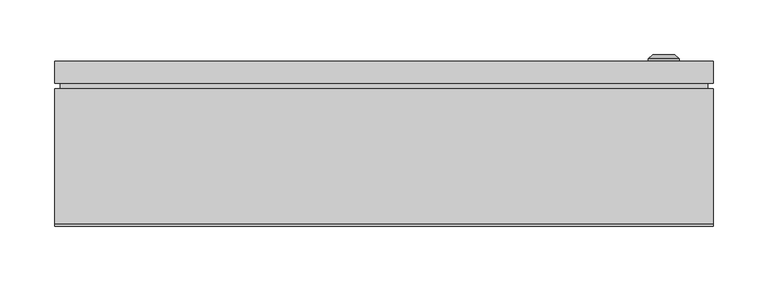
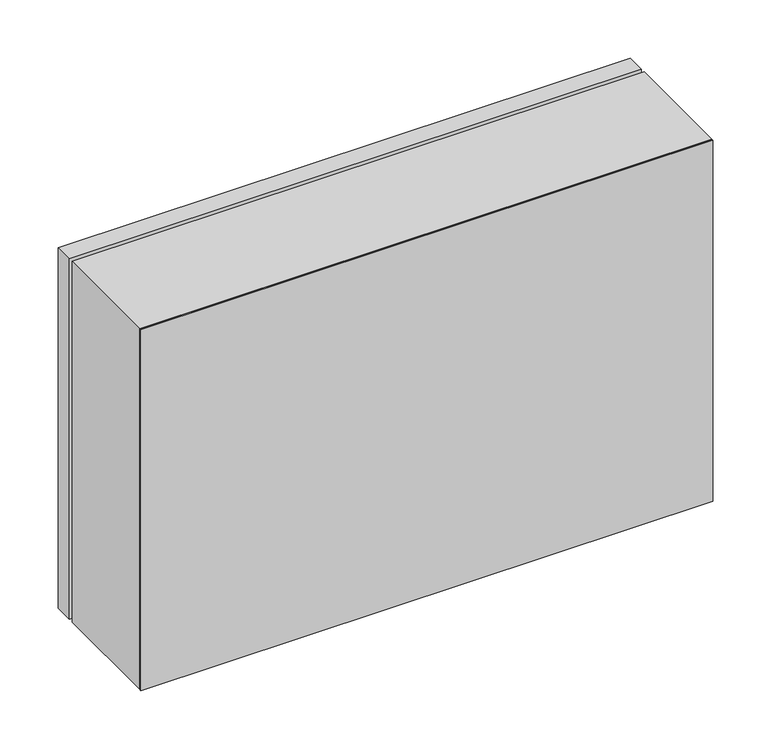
"""IFC4 building model written with IfcOpenShell, lengths in millimetres: proxy geometry, ЩМП_IP65 : ЩМП-4.6.1-0_400х600х150."""

import ifcopenshell
import ifcopenshell.guid

model = None  # the IFC model being written
_history = None  # IfcOwnerHistory: only IFC2X3 demands one
_inside = {}  # id of a spatial element -> (the spatial element, [elements in it])
_under = {}  # id of a project, library or spatial element -> (it, [spatial elements below it])
_declared = {}  # id of a project -> (the project, [libraries it declares])
_typed = {}  # id of a type object -> (the type object, [elements of that type])
_made_of = {}  # id of a material, layer set ... -> (it, [elements and type objects made of it])


def new_model(schema):
    """Start an empty IFC model of exactly this schema.

    Asked for "IFC4X3", IfcOpenShell would pick the latest addendum, in which some entities
    have other attributes; the version numbers below select the first issue.
    IFC2X3 requires an IfcOwnerHistory on every rooted entity: one is made here for all.
    """
    global model, _history
    if schema == "IFC4X3":
        model = ifcopenshell.file(schema_version=(4, 3, 0, 0))
    else:
        model = ifcopenshell.file(schema=schema)
    _inside.clear()
    _under.clear()
    _declared.clear()
    _typed.clear()
    _made_of.clear()
    _history = None
    if model.schema == "IFC2X3":
        org = make("IfcOrganization", Name="unknown")
        user = make(
            "IfcPersonAndOrganization",
            ThePerson=make("IfcPerson", FamilyName="unknown"),
            TheOrganization=org,
        )
        app = make(
            "IfcApplication",
            ApplicationDeveloper=org,
            Version="unknown",
            ApplicationFullName="unknown",
            ApplicationIdentifier="unknown",
        )
        _history = make(
            "IfcOwnerHistory",
            OwningUser=user,
            OwningApplication=app,
            ChangeAction="ADDED",
            CreationDate=0,
        )
    return model


def make(cls, **values):
    """One entity of the class cls with the attributes given. An attribute that is None is left unset."""
    return model.create_entity(
        cls, **{name: value for name, value in values.items() if value is not None}
    )


def rooted(cls, **values):
    """An entity with a GlobalId (a new one), such as an element, a storey or a relation."""
    return make(cls, GlobalId=ifcopenshell.guid.new(), OwnerHistory=_history, **values)


def si_unit(unit_type, name, prefix=None):
    """IfcSIUnit, for example si_unit("LENGTHUNIT", "METRE", prefix="MILLI")."""
    return make("IfcSIUnit", UnitType=unit_type, Prefix=prefix, Name=name)


def assignment(units):
    """IfcUnitAssignment: the units of a project."""
    return None if units is None else make("IfcUnitAssignment", Units=units)


def point(xyz):
    """IfcCartesianPoint."""
    return None if xyz is None else make("IfcCartesianPoint", Coordinates=xyz)


def direction(xyz):
    """IfcDirection."""
    return None if xyz is None else make("IfcDirection", DirectionRatios=xyz)


def frame(location, z_axis=None, x_axis=None):
    """IfcAxis2Placement3D, a coordinate frame: its origin and axes. An axis left out is left unset."""
    return make(
        "IfcAxis2Placement3D",
        Location=point(location),
        Axis=direction(z_axis),
        RefDirection=direction(x_axis),
    )


def origin():
    """The frame at (0, 0, 0) with its axes left unset."""
    return frame((0.0, 0.0, 0.0))


def origin_with_axes():
    """The frame at (0, 0, 0) with the z axis (0, 0, 1) and the x axis (1, 0, 0) written out."""
    return frame((0.0, 0.0, 0.0), z_axis=(0.0, 0.0, 1.0), x_axis=(1.0, 0.0, 0.0))


def place(relative_to, where):
    """IfcLocalPlacement: puts the frame where relative to a parent placement (None: the world)."""
    return make(
        "IfcLocalPlacement", PlacementRelTo=relative_to, RelativePlacement=where
    )


def context(
    kind, dimensions, precision=None, world=None, true_north=None, identifier=None
):
    """IfcGeometricRepresentationContext, for example the 3D "Model" context."""
    return make(
        "IfcGeometricRepresentationContext",
        ContextIdentifier=identifier,
        ContextType=kind,
        CoordinateSpaceDimension=dimensions,
        Precision=precision,
        WorldCoordinateSystem=world,
        TrueNorth=true_north,
    )


def project(units=None, contexts=None):
    """IfcProject with its units and contexts."""
    return rooted(
        "IfcProject",
        Name="project",
        RepresentationContexts=contexts,
        UnitsInContext=assignment(units),
    )


def spatial(cls, under=None, at=None, **own):
    """A site, building, storey or space (cls), placed at a placement, below another one or the project."""
    s = rooted(cls, ObjectPlacement=at, **own)
    if under is not None:
        _under.setdefault(under.id(), (under, []))[1].append(s)
    return s


def polyline(points):
    """IfcPolyline through the points."""
    return make("IfcPolyline", Points=[point(p) for p in points])


def circle_curve(where, radius):
    """IfcCircle in the frame where."""
    return make("IfcCircle", Position=where, Radius=radius)


def outline(outer, holes=None, kind="AREA"):
    """IfcArbitraryClosedProfileDef: a profile drawn as a closed curve; with holes, ...WithVoids."""
    if holes is None:
        return make("IfcArbitraryClosedProfileDef", ProfileType=kind, OuterCurve=outer)
    return make(
        "IfcArbitraryProfileDefWithVoids",
        ProfileType=kind,
        OuterCurve=outer,
        InnerCurves=holes,
    )


def extrude(swept, where, along, depth):
    """IfcExtrudedAreaSolid: the profile swept, set in the frame where, extruded along a direction by depth."""
    return make(
        "IfcExtrudedAreaSolid",
        SweptArea=swept,
        Position=where,
        ExtrudedDirection=direction(along),
        Depth=depth,
    )


def shape(context_of_items, identifier, shape_type, items):
    """IfcShapeRepresentation: the items that make up one representation, for example the "Body"."""
    return make(
        "IfcShapeRepresentation",
        ContextOfItems=context_of_items,
        RepresentationIdentifier=identifier,
        RepresentationType=shape_type,
        Items=items,
    )


def source(mapping_origin, context_of_items, identifier, shape_type, items):
    """IfcRepresentationMap: a shape defined once, which mapped items show again and again."""
    return make(
        "IfcRepresentationMap",
        MappingOrigin=mapping_origin,
        MappedRepresentation=shape(context_of_items, identifier, shape_type, items),
    )


def transform(
    local_origin,
    x_axis=None,
    y_axis=None,
    z_axis=None,
    scale=None,
    scale2=None,
    scale3=None,
    uniform=True,
):
    """IfcCartesianTransformationOperator3D, or its non-uniform kind. x_axis, y_axis, z_axis: its Axis1, 2, 3."""
    if uniform:
        return make(
            "IfcCartesianTransformationOperator3D",
            Axis1=direction(x_axis),
            Axis2=direction(y_axis),
            LocalOrigin=point(local_origin),
            Scale=scale,
            Axis3=direction(z_axis),
        )
    return make(
        "IfcCartesianTransformationOperator3DnonUniform",
        Axis1=direction(x_axis),
        Axis2=direction(y_axis),
        LocalOrigin=point(local_origin),
        Scale=scale,
        Axis3=direction(z_axis),
        Scale2=scale2,
        Scale3=scale3,
    )


def mapped(mapping_source, mapping_target):
    """IfcMappedItem: shows the shape of a source again, moved by a transform."""
    return make(
        "IfcMappedItem", MappingSource=mapping_source, MappingTarget=mapping_target
    )


def made_of(thing, what):
    """Note that an element or type object is made of a material, layer set ...; save() writes the relation."""
    if what is not None:
        _made_of.setdefault(what.id(), (what, []))[1].append(thing)
    return thing


def element(
    cls,
    number,
    at=None,
    inside=None,
    cuts=None,
    type_object=None,
    material=None,
    context=None,
    identifier="Body",
    shape_type=None,
    held_by="IfcProductDefinitionShape",
    body=None,
    shapes=None,
    **own,
):
    """One element of the class cls, such as IfcWall. Its Tag is "e" and its number.

    at: its placement. inside: the storey or other place that contains it. cuts: it is an
    opening in that element (IfcRelVoidsElement). A single representation is given by context,
    identifier, shape_type and body (its items); several are given by shapes. held_by: the class
    of the entity that holds the representations. save() writes the other relations.
    """
    e = rooted(cls, Tag="e%d" % number, ObjectPlacement=at, **own)
    if body is not None:
        shapes = [shape(context, identifier, shape_type, body)]
    if shapes is not None:
        e.Representation = make(held_by, Representations=shapes)
    if inside is not None:
        _inside.setdefault(inside.id(), (inside, []))[1].append(e)
    if cuts is not None:
        rooted(
            "IfcRelVoidsElement", RelatingBuildingElement=cuts, RelatedOpeningElement=e
        )
    if type_object is not None:
        _typed.setdefault(type_object.id(), (type_object, []))[1].append(e)
    return made_of(e, material)


def aggregate(whole, parts):
    """IfcRelAggregates: a whole, such as a stair, and the parts it consists of."""
    return rooted("IfcRelAggregates", RelatingObject=whole, RelatedObjects=parts)


def save(model, path):
    """Write the relations noted so far, then the file.

    IfcRelAggregates (storeys below a building ...), IfcRelContainedInSpatialStructure (elements
    in a storey), IfcRelDefinesByType, IfcRelAssociatesMaterial and IfcRelDeclares: one each for
    every whole, place, type object, material and project.
    """
    for whole, parts in _under.values():
        aggregate(whole, parts)
    for where, things in _inside.values():
        rooted(
            "IfcRelContainedInSpatialStructure",
            RelatedElements=things,
            RelatingStructure=where,
        )
    for kind, things in _typed.values():
        rooted("IfcRelDefinesByType", RelatedObjects=things, RelatingType=kind)
    for what, things in _made_of.values():
        rooted("IfcRelAssociatesMaterial", RelatedObjects=things, RelatingMaterial=what)
    for by, libraries in _declared.values():
        rooted("IfcRelDeclares", RelatingContext=by, RelatedDefinitions=libraries)
    model.write(path)


def plane_surface(at):
    """IfcPlane: the flat surface through the origin of the frame at, square to its z axis."""
    return make("IfcPlane", Position=at)


def cylinder_surface(at, radius):
    """IfcCylindricalSurface: all points at the distance radius from the z axis of the frame at."""
    return make("IfcCylindricalSurface", Position=at, Radius=radius)


def revolved_surface(curve, axis_point, axis_direction):
    """IfcSurfaceOfRevolution: the curve turned about the line through axis_point along axis_direction."""
    return make(
        "IfcSurfaceOfRevolution",
        SweptCurve=make("IfcArbitraryOpenProfileDef", ProfileType="CURVE", Curve=curve),
        AxisPosition=make("IfcAxis1Placement", Location=point(axis_point), Axis=direction(axis_direction)),
    )


def advanced_brep(points, edges, surfaces, faces):
    """IfcAdvancedBrep: a solid bounded by faces that lie on surfaces and meet in shared edges.

    An edge is (start, end): straight between two places in points (the first is 0);
    or (start, end, curve); or (start, end, curve, False) where it runs against its curve.
    A face is (place in surfaces, loops), or (place, loops, False) where it looks against
    its surface's normal. A loop lists edges by number (the first is 1), with a minus sign
    where the edge is run from its end to its start. The first loop is the outer one.
    """
    corners = [point(p) for p in points]
    vertices = [make("IfcVertexPoint", VertexGeometry=c) for c in corners]
    made = []
    for start, end, *more in edges:
        made.append(
            make(
                "IfcEdgeCurve",
                EdgeStart=vertices[start],
                EdgeEnd=vertices[end],
                EdgeGeometry=more[0] if more else make("IfcPolyline", Points=[corners[start], corners[end]]),
                SameSense=more[1] if len(more) > 1 else True,
            )
        )
    hull = []
    for where, loops, *sense in faces:
        bounds = []
        for j, loop in enumerate(loops):
            ring = [make("IfcOrientedEdge", EdgeElement=made[abs(k) - 1], Orientation=k > 0) for k in loop]
            bounds.append(
                make(
                    "IfcFaceOuterBound" if j == 0 else "IfcFaceBound",
                    Bound=make("IfcEdgeLoop", EdgeList=ring),
                    Orientation=True,
                )
            )
        hull.append(make("IfcAdvancedFace", Bounds=bounds, FaceSurface=surfaces[where], SameSense=sense[0] if sense else True))
    return make("IfcAdvancedBrep", Outer=make("IfcClosedShell", CfsFaces=hull))


def electrical_equipment_d7a3c8ac(model_context):
    return source(origin(), model_context, "Body", "SolidModel", [
        extrude(outline(polyline([(295.0, 125.0), (-295.0, 125.0), (-295.0, 130.0), (295.0, 130.0), (295.0, 125.0)])), frame((0.0, 0.0, 5.0), z_axis=(0.0, 0.0, 1.0), x_axis=(1.0, 0.0, 0.0)), (0.0, 0.0, 1.0), 390.0),
        extrude(outline(polyline([(300.0, 130.0), (-300.0, 130.0), (-300.0, 150.0), (300.0, 150.0), (300.0, 130.0)])), origin_with_axes(), (0.0, 0.0, 1.0), 400.0),
        advanced_brep(
        [(240.669873, 150.0, 200.0), (269.330127, 150.0, 200.0), (255.0, 150.0, 200.0), (240.669873, 152.366592, 200.0), (269.330127, 152.366592, 200.0), (245.0, 156.0, 200.0), (265.0, 156.0, 200.0), (253.1080471, 156.0, 200.0), (256.8919529, 156.0, 200.0), (253.1080471, 154.9822294, 200.0), (256.8919529, 154.9822294, 200.0), (255.0, 154.9822294, 200.0)],
        [
            (0, 1, circle_curve(frame((255.0, 150.0, 200.0), z_axis=(0.0, -1.0, 0.0), x_axis=(1.0, 0.0, 0.0)), 14.330127)),
            (1, 2),
            (2, 0),
            (1, 0, circle_curve(frame((255.0, 150.0, 200.0), z_axis=(0.0, -1.0, 0.0), x_axis=(1.0, 0.0, 0.0)), 14.330127)),
            (3, 4, circle_curve(frame((255.0, 152.366592, 200.0), z_axis=(0.0, -1.0, 0.0), x_axis=(1.0, 0.0, 0.0)), 14.330127)),
            (4, 1),
            (0, 3),
            (4, 3, circle_curve(frame((255.0, 152.366592, 200.0), z_axis=(0.0, -1.0, 0.0), x_axis=(1.0, 0.0, 0.0)), 14.330127)),
            (5, 6, circle_curve(frame((255.0, 156.0, 200.0), z_axis=(0.0, -1.0, 0.0), x_axis=(1.0, 0.0, 0.0)), 10.0)),
            (6, 4),
            (3, 5),
            (6, 5, circle_curve(frame((255.0, 156.0, 200.0), z_axis=(0.0, -1.0, 0.0), x_axis=(1.0, 0.0, 0.0)), 10.0)),
            (7, 8, circle_curve(frame((255.0, 156.0, 200.0), z_axis=(0.0, -1.0, 0.0), x_axis=(1.0, 0.0, 0.0)), 1.8919529)),
            (8, 6),
            (5, 7),
            (8, 7, circle_curve(frame((255.0, 156.0, 200.0), z_axis=(0.0, -1.0, 0.0), x_axis=(1.0, 0.0, 0.0)), 1.8919529)),
            (9, 10, circle_curve(frame((255.0, 154.9822294, 200.0), z_axis=(0.0, -1.0, 0.0), x_axis=(1.0, 0.0, 0.0)), 1.8919529)),
            (10, 8),
            (7, 9),
            (10, 9, circle_curve(frame((255.0, 154.9822294, 200.0), z_axis=(0.0, -1.0, 0.0), x_axis=(1.0, 0.0, 0.0)), 1.8919529)),
            (11, 10),
            (9, 11),
        ],
        [
            plane_surface(frame((255.0, 150.0, 200.0), z_axis=(0.0, -1.0, 0.0), x_axis=(1.0, 0.0, 0.0))),
            cylinder_surface(frame((255.0, 163.1348851, 200.0), z_axis=(0.0, 1.0, 0.0), x_axis=(1.0, 0.0, 0.0)), 14.330127),
            revolved_surface(polyline([(269.330127, 152.366592, 200.0), (265.0, 156.0, 200.0)]), (255.0, 163.1348851, 200.0), (0.0, 1.0, 0.0)),
            plane_surface(frame((255.0, 156.0, 200.0), z_axis=(0.0, 1.0, 0.0), x_axis=(1.0, 0.0, 0.0))),
            revolved_surface(polyline([(256.8919529, 156.0, 200.0), (256.8919529, 154.9822294, 200.0)]), (255.0, 163.1348851, 200.0), (0.0, 1.0, 0.0)),
            plane_surface(frame((255.0, 154.9822294, 200.0), z_axis=(0.0, 1.0, 0.0), x_axis=(1.0, 0.0, 0.0))),
        ],
        [
            (0, [[1, 2, 3]]),
            (0, [[4, -3, -2]]),
            (1, [[5, 6, -1, 7]]),
            (1, [[8, -7, -4, -6]]),
            (2, [[9, 10, -5, 11]]),
            (2, [[12, -11, -8, -10]]),
            (3, [[13, 14, -9, 15]]),
            (3, [[16, -15, -12, -14]]),
            (4, [[17, 18, -13, 19]]),
            (4, [[20, -19, -16, -18]]),
            (5, [[21, -17, 22]]),
            (5, [[-22, -20, -21]]),
        ],
    ),
        extrude(outline(polyline([(400.0, -300.0033905), (0.0, -300.0033905), (0.0, 299.9966095), (400.0, 299.9966095), (400.0, -300.0033905)]), holes=[polyline([(365.0, -265.0033905), (365.0, 264.9966095), (35.0, 264.9966095), (35.0, -265.0033905), (365.0, -265.0033905)])]), frame((0.0, 2.0, 0.0), z_axis=(0.0, 1.0, 0.0), x_axis=(0.0, 0.0, 1.0)), (0.0, 0.0, 1.0), 123.0),
        extrude(outline(polyline([(300.0, 0.0), (-300.0, 0.0), (-300.0, 2.0), (300.0, 2.0), (300.0, 0.0)])), origin_with_axes(), (0.0, 0.0, 1.0), 400.0),
    ])


if __name__ == "__main__":
    model = new_model("IFC4")
    model_context = context("Model", 3, world=origin())
    ifc_project = project(units=[si_unit("LENGTHUNIT", "METRE", prefix="MILLI")], contexts=[model_context])
    site = spatial("IfcSite", under=ifc_project)
    building = spatial("IfcBuilding", under=site)
    placement = place(None, origin())
    electrical_equipment_shape = electrical_equipment_d7a3c8ac(model_context)
    element("IfcBuildingElementProxy", 1, Name="ЩМП_IP65 : ЩМП-4.6.1-0_400х600х150", ObjectType="ЩМП_IP65 : ЩМП-4.6.1-0_400х600х150", at=placement, inside=building, context=model_context, shape_type="MappedRepresentation", body=[
        mapped(electrical_equipment_shape, transform((0.0, 0.0, 0.0), x_axis=(1.0, 0.0, 0.0), y_axis=(0.0, 1.0, 0.0), z_axis=(0.0, 0.0, 1.0))),
    ])
    save(model, "model.ifc")
